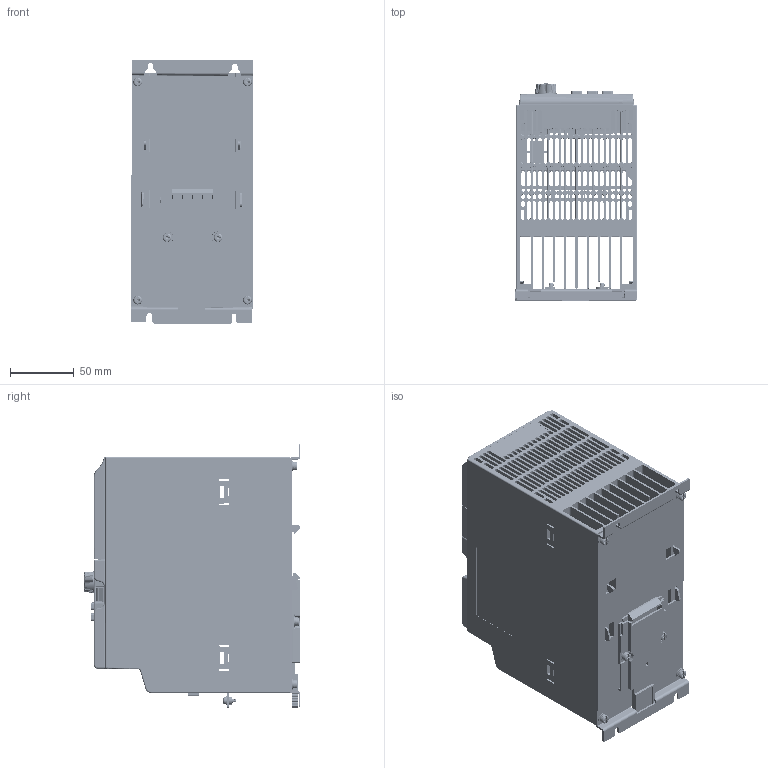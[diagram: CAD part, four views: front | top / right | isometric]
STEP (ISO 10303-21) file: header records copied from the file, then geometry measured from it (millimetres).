
FILE_DESCRIPTION((''),'2;1');
FILE_NAME('XFCX610_3PH_1_5_2_2KW_C_HOUSING','2018-06-25T13:07:51',('zhi2xi'),(''),'CREO PARAMETRIC BY PTC INC, 2017260','CREO PARAMETRIC BY PTC INC, 2017260','');
FILE_SCHEMA(('AUTOMOTIVE_DESIGN { 1 0 10303 214 1 1 1 1 }'));
Products named in the file (50): EFC5610_1K5_CASE_RE_1; MANIFOLD_SOLID_BREP_70613; MANIFOLD_SOLID_BREP_70870; MANIFOLD_SOLID_BREP_71127; MANIFOLD_SOLID_BREP_71384; MANIFOLD_SOLID_BREP_71641; MANIFOLD_SOLID_BREP_71898; MANIFOLD_SOLID_BREP_72155; MANIFOLD_SOLID_BREP_72412; MANIFOLD_SOLID_BREP_72669; GND_1_ASM; 01_DISPLAYCASE_1; DISPLAY_PCB1_1; R911329772_1; R911330025_1; LED_1; CONNECTOR2_1; CONNECTOR_TYCO-331_1; DISPLAY_PCB_ASM_1_ASM; BACK_CASE1_1; R911330333_FOLIE_1; BUUTTON_1; XUAN_NIU_1; LD_KCCT_M3X10_1; LABEL_15X50_1; 02-DISPLAY-CASE_ASM_1_ASM; PRT0010_1; PRT0031_1; ASM0003_ASM_1_ASM; LDZHJ_SZCYZT_M3X8_1; LDZHJ_SZCYZT_M4X10_1; 00_C_ASM_1_ASM; C_ASM; PL_EFC5610_IOCAE_CONVER; LK_YCP06-PLATINE; CPU_CONNECTOR-14P; CONNECTOR; CONNECTOR_TYCO-331; 548190519; CONNECT2-2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
Assembly tree (62 placements, depth 6):
  XFCX610_3PH_1_5_2_2KW_C_HOUSING
    C_ASM
      00_C_ASM_1_ASM
        EFC5610_1K5_CASE_RE_1
        GND_1_ASM
          MANIFOLD_SOLID_BREP_70613
          MANIFOLD_SOLID_BREP_70870
          MANIFOLD_SOLID_BREP_71127
          MANIFOLD_SOLID_BREP_71384
          MANIFOLD_SOLID_BREP_71641
          MANIFOLD_SOLID_BREP_71898
          MANIFOLD_SOLID_BREP_72155
          MANIFOLD_SOLID_BREP_72412
          MANIFOLD_SOLID_BREP_72669
        02-DISPLAY-CASE_ASM_1_ASM
          01_DISPLAYCASE_1
          DISPLAY_PCB_ASM_1_ASM
            DISPLAY_PCB1_1
            R911329772_1  x6
            R911330025_1
            LED_1
            CONNECTOR2_1
            CONNECTOR_TYCO-331_1
          BACK_CASE1_1
          R911330333_FOLIE_1
          BUUTTON_1
          XUAN_NIU_1
          LD_KCCT_M3X10_1  x2
          LABEL_15X50_1
        ASM0003_ASM_1_ASM
          PRT0010_1
          PRT0031_1
        LDZHJ_SZCYZT_M3X8_1  x2
        LDZHJ_SZCYZT_M4X10_1  x6
    01-IOCASE
      PL_EFC5610_IOCAE_CONVER
      LK_YCP06
        LK_YCP06-PLATINE
        CPU_CONNECTOR-14P
        CONNECTOR
        CONNECTOR_TYCO-331
        548190519
        CONNECT2-2
        2185-205SY3
        1155590000
      DB272710
      01-IOBACK_CASE
      LD_KCCT_M3X10  x2
    R912005577
    C_DIBAN
Bounding box: 95.97 x 170.05 x 207.52 mm (x, y, z)
Volume: 562227.8 mm3; surface area: 544364.7 mm2
Topology: 58 solids, 64 shells, 9830 faces, 26266 edges, 16707 vertices
Faces by surface type: plane 5553, cylinder 2651, torus 615, bspline 571, cone 221, sphere 145, extrusion 74
Entity records: 386822 total; most frequent: CARTESIAN_POINT 88835, ORIENTED_EDGE 46764, DIRECTION 43819, EDGE_CURVE 23382, PRESENTATION_STYLE_ASSIGNMENT 20718, STYLED_ITEM 18677, CURVE_STYLE 18585, VECTOR 15959
